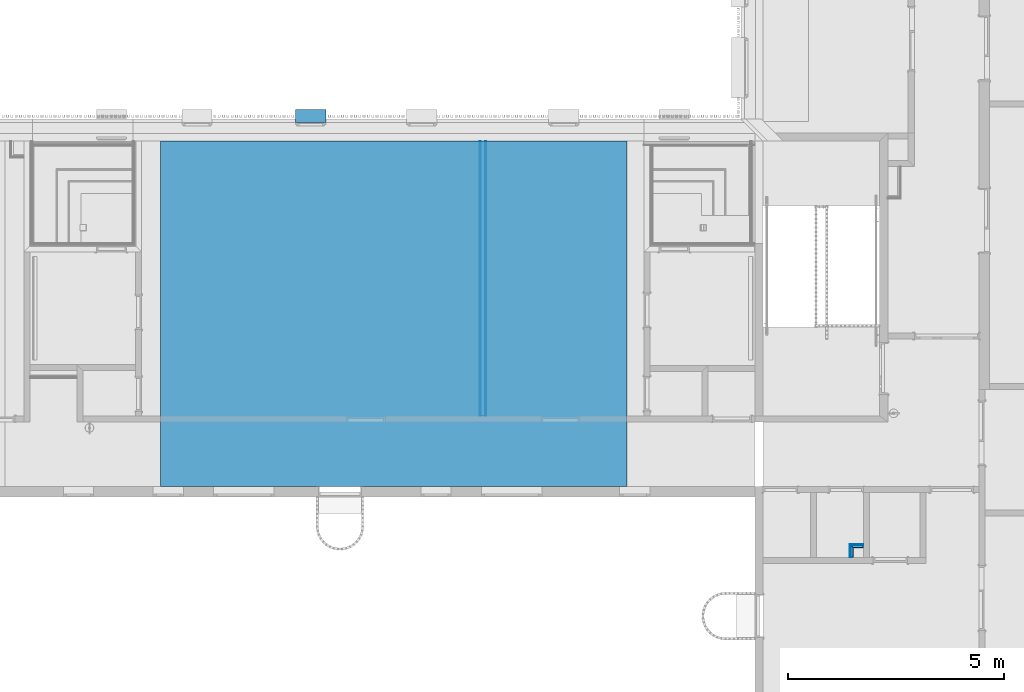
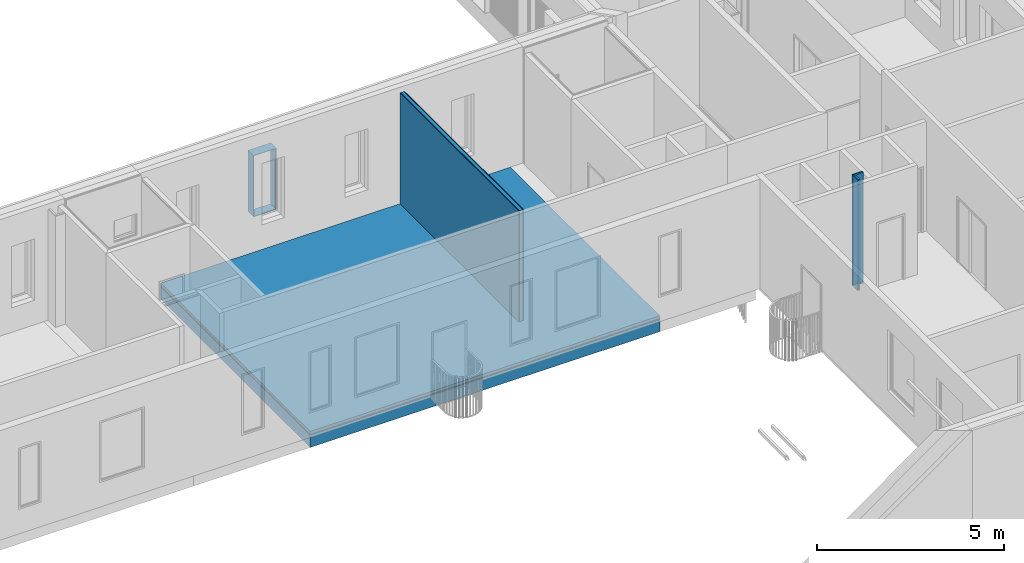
# One storey, part 31 of 100: 14 building element parts, 1 discrete accessory, 4 elements without a shape of their own.
"""IFC2X3 building model written with IfcOpenShell, lengths in millimetres."""

from ifc_helpers import new_model, entity, si_unit, converted_unit, derived_unit, money_unit, direction, frame, origin_with_axes, place, context, subcontext, project, spatial, polyline, outline, extrude, faceted_brep, source, transform, mapped, material, type_object, element, aggregate, save


model = new_model("IFC2X3")

# Units and contexts
model_context = context("Model", 3, precision=0.01, world=origin_with_axes(), true_north=direction((0.0, 1.0)))
body_context = subcontext(model_context, "Body", "Model", "MODEL_VIEW")
ifc_project = project(units=[si_unit("LENGTHUNIT", "METRE", prefix="MILLI"), si_unit("AREAUNIT", "SQUARE_METRE"), si_unit("VOLUMEUNIT", "CUBIC_METRE"), converted_unit("PLANEANGLEUNIT", "DEGREE", entity("IfcPlaneAngleMeasure", 0.0174532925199), si_unit("PLANEANGLEUNIT", "RADIAN"), dimensions=[0, 0, 0, 0, 0, 0, 0]), si_unit("SOLIDANGLEUNIT", "STERADIAN"), money_unit("EUR"), converted_unit("TIMEUNIT", "Year", entity("IfcTimeMeasure", 31556926.0), si_unit("TIMEUNIT", "SECOND"), dimensions=[0, 0, 1, 0, 0, 0, 0]), si_unit("MASSUNIT", "GRAM", prefix="KILO"), si_unit("THERMODYNAMICTEMPERATUREUNIT", "DEGREE_CELSIUS"), si_unit("LUMINOUSINTENSITYUNIT", "LUMEN"), si_unit("ENERGYUNIT", "JOULE", prefix="MEGA"), derived_unit("THERMALCONDUCTANCEUNIT", [(si_unit("POWERUNIT", "WATT"), 1), (si_unit("LENGTHUNIT", "METRE"), -1), (si_unit("THERMODYNAMICTEMPERATUREUNIT", "KELVIN"), -1)]), derived_unit("SPECIFICHEATCAPACITYUNIT", [(si_unit("ENERGYUNIT", "JOULE"), 1), (si_unit("MASSUNIT", "GRAM", prefix="KILO"), -1), (si_unit("THERMODYNAMICTEMPERATUREUNIT", "KELVIN"), -1)]), derived_unit("MASSDENSITYUNIT", [(si_unit("MASSUNIT", "GRAM", prefix="KILO"), 1), (si_unit("VOLUMEUNIT", "CUBIC_METRE"), -1)])], contexts=[model_context])

# Site, building, storey
site_placement = place(None, origin_with_axes())
site = spatial("IfcSite", under=ifc_project, at=site_placement, Name="Politse- ja Piirivalveameti ning Päästeameti ühishoone", CompositionType="ELEMENT")
building_placement = place(site_placement, origin_with_axes())
building = spatial("IfcBuilding", under=site, at=building_placement, Name="Politse- ja Piirivalveameti ning Päästeameti ühishoone", CompositionType="ELEMENT")
storey_placement = place(building_placement, frame((0.0, 0.0, 3800.0), z_axis=(0.0, 0.0, 1.0), x_axis=(1.0, 0.0, 0.0)))
storey = spatial("IfcBuildingStorey", under=building, at=storey_placement, Name="Teine korrus", CompositionType="ELEMENT", Elevation=3800.0)

# Discrete accessory
ifc_material_1 = material(Name="SV-01_Krohv - Kips")
discrete_accessory_type = type_object("IfcDiscreteAccessoryType", Name="Architrave 01 23")
shared_shape = source(origin_with_axes(), body_context, "Body", "Brep", [
    faceted_brep([(350.0, 0.0, -10.0), (350.0, -300.182356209, -10.0), (-350.0, -300.182356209, -10.0), (-350.0, 0.0, -10.0), (340.0, 0.0, 0.0), (340.0, -300.182356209, 0.0), (-340.0, -300.182356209, 0.0), (-340.0, 0.0, 0.0)], [[[0, 1, 2, 3]], [[4, 5, 1, 0]], [[1, 5, 6, 2]], [[3, 2, 6, 7]], [[0, 3, 7, 4]], [[7, 6, 5, 4]]]),
    faceted_brep([(-350.0, 0.0, -10.0), (-350.0, -300.182356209, -10.0), (-350.0, -300.182356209, 1990.0), (-350.0, 0.0, 1990.0), (-340.0, 0.0, 0.0), (-340.0, -300.182356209, 0.0), (-340.0, -300.182356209, 1980.0), (-340.0, 0.0, 1980.0)], [[[0, 1, 2, 3]], [[4, 5, 1, 0]], [[1, 5, 6, 2]], [[3, 2, 6, 7]], [[0, 3, 7, 4]], [[7, 6, 5, 4]]]),
    faceted_brep([(-350.0, 0.0, 1990.0), (-350.0, -300.182356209, 1990.0), (350.0, -300.182356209, 1990.0), (350.0, 0.0, 1990.0), (-340.0, 0.0, 1980.0), (-340.0, -300.182356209, 1980.0), (340.0, -300.182356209, 1980.0), (340.0, 0.0, 1980.0)], [[[0, 1, 2, 3]], [[4, 5, 1, 0]], [[1, 5, 6, 2]], [[3, 2, 6, 7]], [[0, 3, 7, 4]], [[7, 6, 5, 4]]]),
    faceted_brep([(350.0, 0.0, 1990.0), (350.0, -300.182356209, 1990.0), (350.0, -300.182356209, -10.0), (350.0, 0.0, -10.0), (340.0, 0.0, 1980.0), (340.0, -300.182356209, 1980.0), (340.0, -300.182356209, 0.0), (340.0, 0.0, 0.0)], [[[0, 1, 2, 3]], [[4, 5, 1, 0]], [[1, 5, 6, 2]], [[3, 2, 6, 7]], [[0, 3, 7, 4]], [[7, 6, 5, 4]]]),
])
discrete_accessory_placement = place(storey_placement, frame((49684.8537217, 21429.9520134, 810.0), z_axis=(0.0, 0.0, 1.0), x_axis=(-1.0, 0.0, 0.0)))
element("IfcDiscreteAccessory", 1, at=discrete_accessory_placement, inside=storey, type_object=discrete_accessory_type, material=ifc_material_1, Name="AKNARAAM 01", context=body_context, shape_type="MappedRepresentation", body=[
    mapped(shared_shape, transform((0.0, 0.0, 0.0))),
])

# Wall, building element parts
wall_type_1 = type_object("IfcWallType", Name="SS-01_kergsein 150mm 150", PredefinedType="NOTDEFINED")
wall_1_placement = place(storey_placement, frame((53750.4552071, 20999.9520832, 0.0), z_axis=(0.0, 0.0, 1.0), x_axis=(0.0, -1.0, 0.0)))
wall_1 = element("IfcWall", 2, at=wall_1_placement, inside=storey, type_object=wall_type_1, Name="SS-01")
ifc_material_2 = material(Name="SKR-02_Kipsplaat")
building_element_part_1_placement = place(wall_1_placement, origin_with_axes())
building_element_part_1 = element("IfcBuildingElementPart", 3, at=building_element_part_1_placement, material=ifc_material_2, Name="SKR-02_Kipsplaat", context=body_context, shape_type="SweptSolid", body=[
    extrude(outline(polyline([(-0.000948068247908, -150.0), (6359.9099304, -150.0), (6359.9099304, -137.0), (-0.00094975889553, -137.0), (-0.000948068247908, -150.0)])), origin_with_axes(), (0.0, 0.0, 1.0), 3620.0),
])
building_element_part_2_placement = place(wall_1_placement, origin_with_axes())
building_element_part_2 = element("IfcBuildingElementPart", 4, at=building_element_part_2_placement, material=ifc_material_2, Name="SKR-02_Kipsplaat", context=body_context, shape_type="SweptSolid", body=[
    extrude(outline(polyline([(-0.00094975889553, -137.0), (6359.9099304, -137.0), (6359.9099304, -125.0), (-0.000951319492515, -125.0), (-0.00094975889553, -137.0)])), origin_with_axes(), (0.0, 0.0, 1.0), 3620.0),
])
ifc_material_3 = material(Name="SOJ-03_Soojustus - Mineraal Pehme")
building_element_part_3_placement = place(wall_1_placement, origin_with_axes())
building_element_part_3 = element("IfcBuildingElementPart", 5, at=building_element_part_3_placement, material=ifc_material_3, Name="SOJ-03_Soojustus - Mineraal Pehme", context=body_context, shape_type="SweptSolid", body=[
    extrude(outline(polyline([(-0.000951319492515, -125.0), (6359.9099304, -125.0), (6359.9099304, -25.0), (-0.000964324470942, -25.0), (-0.000951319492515, -125.0)])), origin_with_axes(), (0.0, 0.0, 1.0), 3620.0),
])
building_element_part_4_placement = place(wall_1_placement, origin_with_axes())
building_element_part_4 = element("IfcBuildingElementPart", 6, at=building_element_part_4_placement, material=ifc_material_2, Name="SKR-02_Kipsplaat", context=body_context, shape_type="SweptSolid", body=[
    extrude(outline(polyline([(-0.000964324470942, -25.0), (6359.9099304, -25.0), (6359.9099304, -12.0), (-0.000966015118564, -12.0), (-0.000964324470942, -25.0)])), origin_with_axes(), (0.0, 0.0, 1.0), 3620.0),
])
building_element_part_5_placement = place(wall_1_placement, origin_with_axes())
building_element_part_5 = element("IfcBuildingElementPart", 7, at=building_element_part_5_placement, material=ifc_material_2, Name="SKR-02_Kipsplaat", context=body_context, shape_type="SweptSolid", body=[
    extrude(outline(polyline([(-0.000966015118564, -12.0), (6359.9099304, -12.0), (6359.9099304, 0.0), (-0.000967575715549, 0.0), (-0.000966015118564, -12.0)])), origin_with_axes(), (0.0, 0.0, 1.0), 3620.0),
])
aggregate(wall_1, [building_element_part_1, building_element_part_2, building_element_part_3, building_element_part_4, building_element_part_5])

# Slab, building element parts
slab_type = type_object("IfcSlabType", Name="VL-05_Vahelagi   400 paneel 520", PredefinedType="NOTDEFINED")
slab_placement = place(storey_placement, frame((46210.0281609, 20999.904857, 0.0), z_axis=(0.0, 0.0, 1.0), x_axis=(1.0, 0.0, 0.0)))
slab = element("IfcSlab", 8, at=slab_placement, inside=storey, type_object=slab_type, Name="VL-05", PredefinedType="NOTDEFINED")
ifc_material_4 = material(Name="KON-06_Raudbetoon - Konstruktsioon")
building_element_part_6_placement = place(slab_placement, origin_with_axes())
building_element_part_6 = element("IfcBuildingElementPart", 9, at=building_element_part_6_placement, material=ifc_material_4, Name="KON-06_Raudbetoon - Konstruktsioon", context=body_context, shape_type="SweptSolid", body=[
    extrude(outline(polyline([(0.0, 0.0), (-0.0337959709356, -7999.88499592), (10800.0038464, -7999.88499592), (10799.9997956, 0.0362099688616), (0.0, 0.0)])), frame((0.0, 0.0, -520.0), z_axis=(0.0, 0.0, 1.0), x_axis=(1.0, 0.0, 0.0)), (0.0, 0.0, 1.0), 400.0),
])
ifc_material_5 = material(Name="SOJ-04_Soojustus - Mineraal Kõva")
building_element_part_7_placement = place(slab_placement, origin_with_axes())
building_element_part_7 = element("IfcBuildingElementPart", 10, at=building_element_part_7_placement, material=ifc_material_5, Name="SOJ-04_Soojustus - Mineraal Kõva", context=body_context, shape_type="SweptSolid", body=[
    extrude(outline(polyline([(0.0, 0.0), (-0.0337959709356, -7999.88499592), (10800.0038464, -7999.88499592), (10799.9997956, 0.0362099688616), (0.0, 0.0)])), frame((0.0, 0.0, -120.0), z_axis=(0.0, 0.0, 1.0), x_axis=(1.0, 0.0, 0.0)), (0.0, 0.0, 1.0), 30.0),
])
ifc_material_6 = material(Name="VKR-01_Betoon")
building_element_part_8_placement = place(slab_placement, origin_with_axes())
building_element_part_8 = element("IfcBuildingElementPart", 11, at=building_element_part_8_placement, material=ifc_material_6, Name="VKR-01_Betoon", context=body_context, shape_type="SweptSolid", body=[
    extrude(outline(polyline([(0.0, 0.0), (-0.0337959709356, -7999.88499592), (10800.0038464, -7999.88499592), (10799.9997956, 0.0362099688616), (0.0, 0.0)])), frame((0.0, 0.0, -90.0), z_axis=(0.0, 0.0, 1.0), x_axis=(1.0, 0.0, 0.0)), (0.0, 0.0, 1.0), 90.0),
])
aggregate(slab, [building_element_part_6, building_element_part_7, building_element_part_8])

# Wall, building element parts
wall_type_2 = type_object("IfcWallType", Name="SS-13_kergsein 75 ümber el-kilbi 75", PredefinedType="NOTDEFINED")
wall_2_placement = place(storey_placement, frame((62168.2480796, 11665.0198611, 0.0), z_axis=(0.0, 0.0, 1.0), x_axis=(1.0, 0.0, 0.0)))
wall_2 = element("IfcWall", 12, at=wall_2_placement, inside=storey, type_object=wall_type_2, Name="SS-13")
ifc_material_7 = material(Name="Õhkvahe - Raam")
building_element_part_9_placement = place(wall_2_placement, origin_with_axes())
building_element_part_9 = element("IfcBuildingElementPart", 13, at=building_element_part_9_placement, material=ifc_material_7, Name="Õhkvahe - Raam", context=body_context, shape_type="SweptSolid", body=[
    extrude(outline(polyline([(75.0, -75.0), (315.0, -75.0), (315.0, -25.0), (25.0, -25.0), (75.0, -75.0)])), origin_with_axes(), (0.0, 0.0, 1.0), 3620.0),
])
building_element_part_10_placement = place(wall_2_placement, origin_with_axes())
building_element_part_10 = element("IfcBuildingElementPart", 14, at=building_element_part_10_placement, material=ifc_material_2, Name="SKR-02_Kipsplaat", context=body_context, shape_type="SweptSolid", body=[
    extrude(outline(polyline([(25.0, -25.0), (315.0, -25.0), (315.0, -12.0), (12.0, -12.0), (25.0, -25.0)])), origin_with_axes(), (0.0, 0.0, 1.0), 3620.0),
])
building_element_part_11_placement = place(wall_2_placement, origin_with_axes())
building_element_part_11 = element("IfcBuildingElementPart", 15, at=building_element_part_11_placement, material=ifc_material_2, Name="SKR-02_Kipsplaat", context=body_context, shape_type="SweptSolid", body=[
    extrude(outline(polyline([(12.0, -12.0), (315.0, -12.0), (315.0, 0.0), (0.0, 0.0), (12.0, -12.0)])), origin_with_axes(), (0.0, 0.0, 1.0), 3620.0),
])
aggregate(wall_2, [building_element_part_9, building_element_part_10, building_element_part_11])

wall_3_placement = place(storey_placement, frame((62168.2480796, 11665.0198611, 0.0), z_axis=(0.0, 0.0, 1.0), x_axis=(0.0, -1.0, 0.0)))
wall_3 = element("IfcWall", 16, at=wall_3_placement, inside=storey, type_object=wall_type_2, Name="SS-13")
building_element_part_12_placement = place(wall_3_placement, origin_with_axes())
building_element_part_12 = element("IfcBuildingElementPart", 17, at=building_element_part_12_placement, material=ifc_material_7, Name="Õhkvahe - Raam", context=body_context, shape_type="SweptSolid", body=[
    extrude(outline(polyline([(25.0, 25.0), (305.0, 25.0), (305.0, 75.0), (75.0, 75.0), (25.0, 25.0)])), origin_with_axes(), (0.0, 0.0, 1.0), 3620.0),
])
building_element_part_13_placement = place(wall_3_placement, origin_with_axes())
building_element_part_13 = element("IfcBuildingElementPart", 18, at=building_element_part_13_placement, material=ifc_material_2, Name="SKR-02_Kipsplaat", context=body_context, shape_type="SweptSolid", body=[
    extrude(outline(polyline([(12.0, 12.0), (305.0, 12.0), (305.0, 25.0), (25.0, 25.0), (12.0, 12.0)])), origin_with_axes(), (0.0, 0.0, 1.0), 3620.0),
])
building_element_part_14_placement = place(wall_3_placement, origin_with_axes())
building_element_part_14 = element("IfcBuildingElementPart", 19, at=building_element_part_14_placement, material=ifc_material_2, Name="SKR-02_Kipsplaat", context=body_context, shape_type="SweptSolid", body=[
    extrude(outline(polyline([(0.0, 0.0), (305.0, 0.0), (305.0, 12.0), (12.0, 12.0), (0.0, 0.0)])), origin_with_axes(), (0.0, 0.0, 1.0), 3620.0),
])
aggregate(wall_3, [building_element_part_12, building_element_part_13, building_element_part_14])

save(model, "model.ifc")
